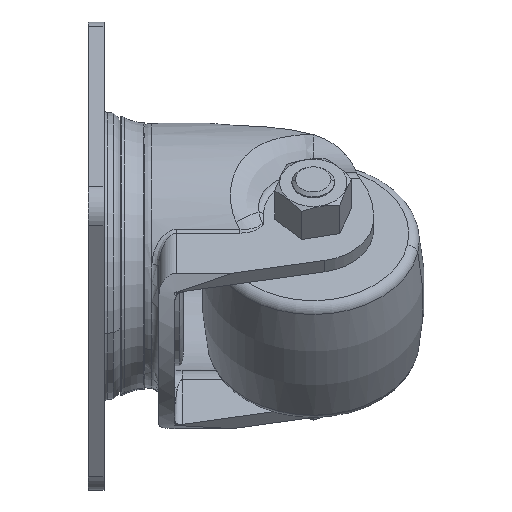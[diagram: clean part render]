
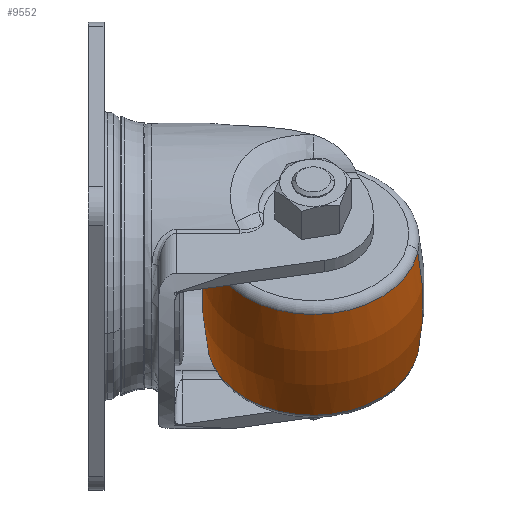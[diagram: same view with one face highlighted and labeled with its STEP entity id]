
A CAD part, left-side view. The second image highlights one B-rep face of the part: STEP entity #9552.
In plain terms, the highlighted toroidal (fillet/blend) face has major radius 104.254 mm and minor radius 135.633 mm.
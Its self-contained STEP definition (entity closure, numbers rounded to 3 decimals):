
#323 = VERTEX_POINT ( 'NONE', #9366 ) ;
#598 = AXIS2_PLACEMENT_3D ( 'NONE', #9090, #4150, #9932 ) ;
#1006 = EDGE_CURVE ( 'NONE', #323, #4139, #7197, .T. ) ;
#1258 = DIRECTION ( 'NONE',  ( 0., 1., 0. ) ) ;
#1890 = ORIENTED_EDGE ( 'NONE', *, *, #6799, .F. ) ;
#2518 = DIRECTION ( 'NONE',  ( 1., 0., 0. ) ) ;
#3404 = DIRECTION ( 'NONE',  ( 0., 0., 1. ) ) ;
#3438 = DIRECTION ( 'NONE',  ( -1., 0., 0. ) ) ;
#3478 = CARTESIAN_POINT ( 'NONE',  ( 0., 0., -104.254 ) ) ;
#4139 = VERTEX_POINT ( 'NONE', #7549 ) ;
#4150 = DIRECTION ( 'NONE',  ( 0., 1., 0. ) ) ;
#4286 = DIRECTION ( 'NONE',  ( 0., 1., 0. ) ) ;
#4417 = AXIS2_PLACEMENT_3D ( 'NONE', #6144, #1258, #6992 ) ;
#4509 = CIRCLE ( 'NONE', #6439, 135.633 ) ;
#4967 = ORIENTED_EDGE ( 'NONE', *, *, #1006, .T. ) ;
#5497 = EDGE_CURVE ( 'NONE', #8904, #323, #5799, .T. ) ;
#5705 = AXIS2_PLACEMENT_3D ( 'NONE', #9262, #4286, #10095 ) ;
#5799 = CIRCLE ( 'NONE', #598, 29.905 ) ;
#6144 = CARTESIAN_POINT ( 'NONE',  ( 0., 19.941, 0. ) ) ;
#6154 = AXIS2_PLACEMENT_3D ( 'NONE', #3478, #3438, #3404 ) ;
#6251 = CARTESIAN_POINT ( 'NONE',  ( 0., 19.941, -29.905 ) ) ;
#6439 = AXIS2_PLACEMENT_3D ( 'NONE', #7464, #2518, #8293 ) ;
#6532 = FACE_OUTER_BOUND ( 'NONE', #8258, .T. ) ;
#6799 = EDGE_CURVE ( 'NONE', #8904, #9893, #4509, .T. ) ;
#6992 = DIRECTION ( 'NONE',  ( 0., 0., 1. ) ) ;
#7197 = CIRCLE ( 'NONE', #6154, 135.633 ) ;
#7440 = ORIENTED_EDGE ( 'NONE', *, *, #5497, .T. ) ;
#7453 = ORIENTED_EDGE ( 'NONE', *, *, #9801, .F. ) ;
#7464 = CARTESIAN_POINT ( 'NONE',  ( 0., 0., 104.254 ) ) ;
#7549 = CARTESIAN_POINT ( 'NONE',  ( 0., 19.941, 29.905 ) ) ;
#8258 = EDGE_LOOP ( 'NONE', ( #1890, #7440, #4967, #7453 ) ) ;
#8293 = DIRECTION ( 'NONE',  ( 0., 0., -1. ) ) ;
#8752 = TOROIDAL_SURFACE ( 'NONE', #5705, -104.254, 135.633 ) ;
#8904 = VERTEX_POINT ( 'NONE', #9915 ) ;
#9090 = CARTESIAN_POINT ( 'NONE',  ( 0., -19.941, 0. ) ) ;
#9114 = CIRCLE ( 'NONE', #4417, 29.905 ) ;
#9262 = CARTESIAN_POINT ( 'NONE',  ( 0., 0., 0. ) ) ;
#9366 = CARTESIAN_POINT ( 'NONE',  ( 0., -19.941, 29.905 ) ) ;
#9552 = ADVANCED_FACE ( 'NONE', ( #6532 ), #8752, .T. ) ;
#9801 = EDGE_CURVE ( 'NONE', #9893, #4139, #9114, .T. ) ;
#9893 = VERTEX_POINT ( 'NONE', #6251 ) ;
#9915 = CARTESIAN_POINT ( 'NONE',  ( 0., -19.941, -29.905 ) ) ;
#9932 = DIRECTION ( 'NONE',  ( 0., 0., 1. ) ) ;
#10095 = DIRECTION ( 'NONE',  ( 0., 0., 1. ) ) ;
